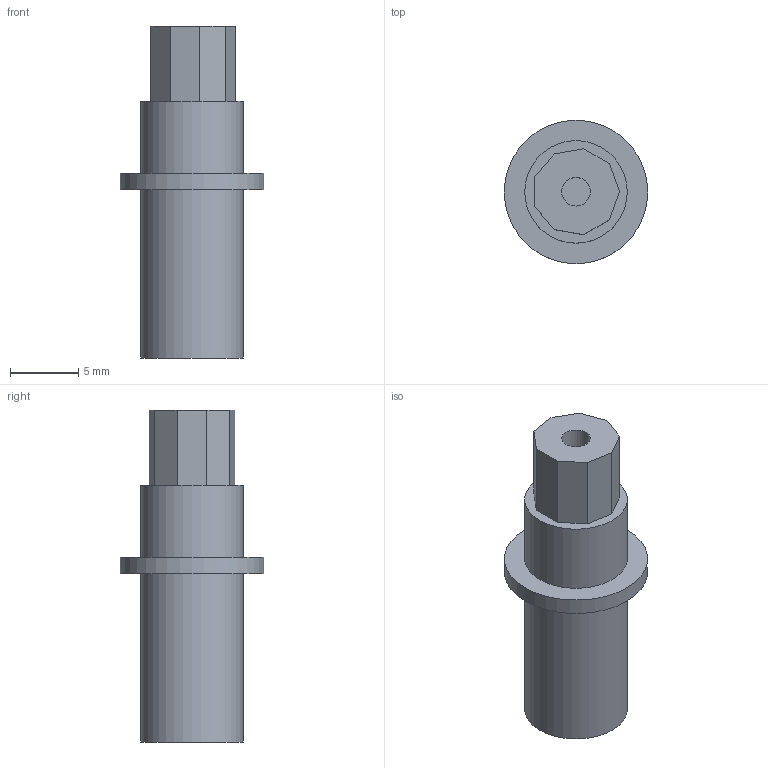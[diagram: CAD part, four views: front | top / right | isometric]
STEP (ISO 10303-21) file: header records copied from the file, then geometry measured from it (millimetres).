
FILE_DESCRIPTION(('Open CASCADE Model'),'2;1');
FILE_NAME('Open CASCADE Shape Model','2026-11-10T13:53:39',('Author'),( 'Open CASCADE'),'Open CASCADE STEP processor 7.7','Open CASCADE 7.7' ,'Unknown');
FILE_SCHEMA(('AUTOMOTIVE_DESIGN { 1 0 10303 214 1 1 1 1 }'));
Length unit declared in the file: millimetre
Products named in the file (1): Open CASCADE STEP translator 7.7 7
Bounding box: 10.5 x 10.5 x 24.29 mm (x, y, z)
Volume: 968.6 mm3; surface area: 835.3 mm2
Topology: 1 solids, 1 shells, 22 faces, 45 edges, 30 vertices
Faces by surface type: plane 17, cylinder 5
Full cylindrical faces by diameter (mm): 2.1 x1, 7.5 x2, 10.5 x1
Entity records: 1163 total; most frequent: CARTESIAN_POINT 244, DIRECTION 160, ORIENTED_EDGE 90, PCURVE 90, DEFINITIONAL_REPRESENTATION 90, LINE 89, VECTOR 89, EDGE_CURVE 45
